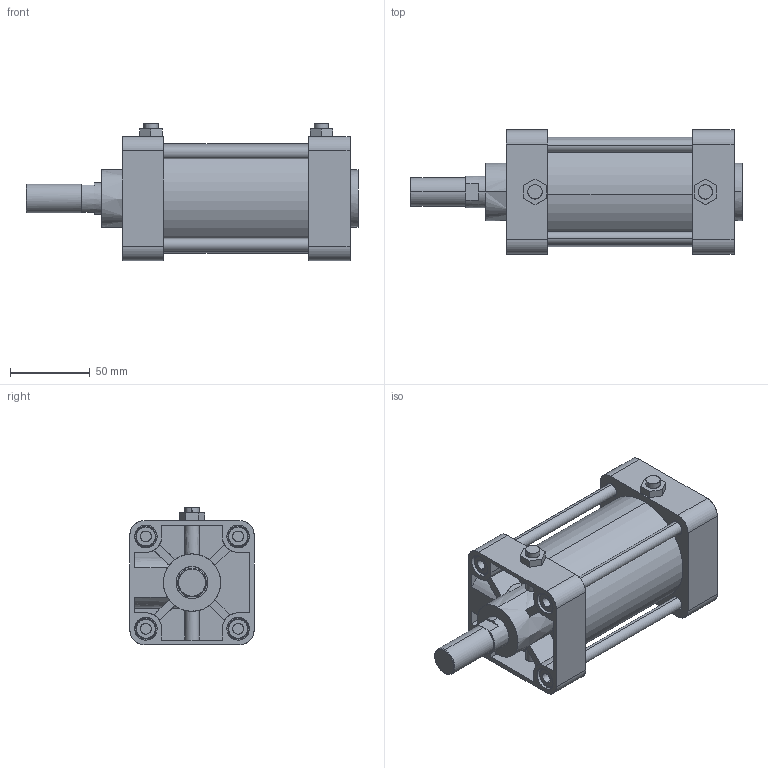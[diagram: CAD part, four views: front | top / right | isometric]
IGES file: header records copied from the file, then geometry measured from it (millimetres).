
Start section: SolidWorks IGES file using analytic representation for surfaces
Global section: file name: C:\Users\Toshiba\Desktop\KG2-63-50-N.IGS; native system: SolidWorks 2014; preprocessor: SolidWorks 2014; author: Toshiba; date: 160401.161618; units: millimetre
Bounding box: 208.5 x 78 x 86.3 mm (x, y, z)
Surface area: 119446.8 mm2 (no closed solid volume)
Topology: 0 solids, 0 shells, 315 faces, 4902 edges, 4898 vertices
Faces by surface type: bspline 169, revolution 146
